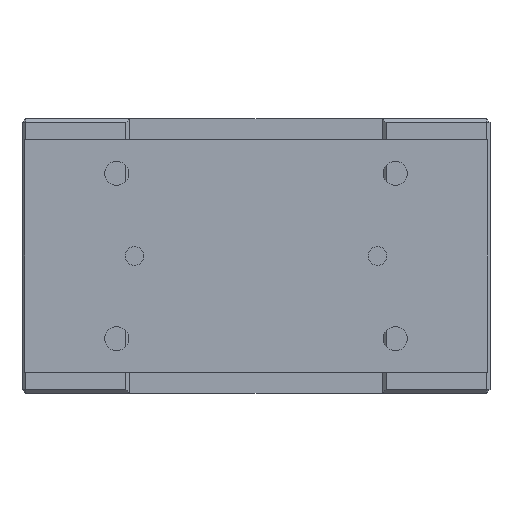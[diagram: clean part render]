
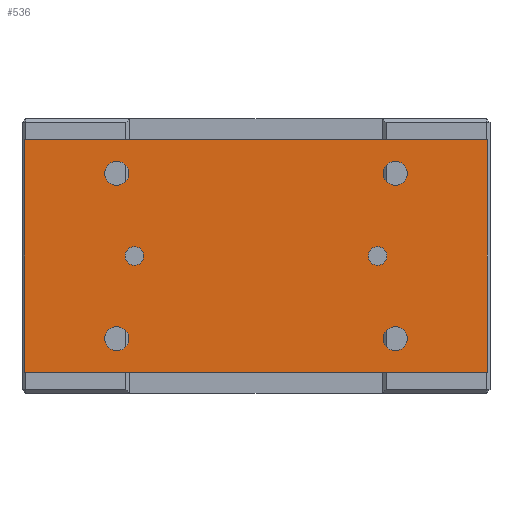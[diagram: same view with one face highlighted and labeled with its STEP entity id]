
A CAD part, left-side view. The second image highlights one B-rep face of the part: STEP entity #536.
In plain terms, the highlighted planar face has unit normal (-1, 0, 0).
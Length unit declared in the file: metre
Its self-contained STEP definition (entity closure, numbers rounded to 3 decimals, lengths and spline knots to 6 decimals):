
#536 = ADVANCED_FACE( '', ( #1251, #1252, #1253, #1254, #1255, #1256, #1257 ), #1258, .T. );
#1251 = FACE_BOUND( '', #2145, .T. );
#1252 = FACE_BOUND( '', #2146, .T. );
#1253 = FACE_BOUND( '', #2147, .T. );
#1254 = FACE_BOUND( '', #2148, .T. );
#1255 = FACE_BOUND( '', #2149, .T. );
#1256 = FACE_BOUND( '', #2150, .T. );
#1257 = FACE_OUTER_BOUND( '', #2151, .T. );
#1258 = PLANE( '', #2152 );
#2145 = EDGE_LOOP( '', ( #3507 ) );
#2146 = EDGE_LOOP( '', ( #3508 ) );
#2147 = EDGE_LOOP( '', ( #3509 ) );
#2148 = EDGE_LOOP( '', ( #3510 ) );
#2149 = EDGE_LOOP( '', ( #3511 ) );
#2150 = EDGE_LOOP( '', ( #3512 ) );
#2151 = EDGE_LOOP( '', ( #3513, #3514, #3515, #3516 ) );
#2152 = AXIS2_PLACEMENT_3D( '', #3517, #3518, #3519 );
#3507 = ORIENTED_EDGE( '', *, *, #4741, .F. );
#3508 = ORIENTED_EDGE( '', *, *, #4742, .T. );
#3509 = ORIENTED_EDGE( '', *, *, #4348, .F. );
#3510 = ORIENTED_EDGE( '', *, *, #4356, .F. );
#3511 = ORIENTED_EDGE( '', *, *, #4458, .F. );
#3512 = ORIENTED_EDGE( '', *, *, #4404, .F. );
#3513 = ORIENTED_EDGE( '', *, *, #4484, .T. );
#3514 = ORIENTED_EDGE( '', *, *, #4743, .T. );
#3515 = ORIENTED_EDGE( '', *, *, #4744, .T. );
#3516 = ORIENTED_EDGE( '', *, *, #4525, .T. );
#3517 = CARTESIAN_POINT( '', ( -0.143, -0.1245, -0.0115 ) );
#3518 = DIRECTION( '', ( -1., 0., 0. ) );
#3519 = DIRECTION( '', ( 0., 0., 1. ) );
#4348 = EDGE_CURVE( '', #5025, #5025, #5026, .T. );
#4356 = EDGE_CURVE( '', #5039, #5039, #5040, .T. );
#4404 = EDGE_CURVE( '', #5121, #5121, #5122, .T. );
#4458 = EDGE_CURVE( '', #5208, #5208, #5209, .T. );
#4484 = EDGE_CURVE( '', #5251, #5249, #5252, .T. );
#4525 = EDGE_CURVE( '', #5311, #5251, #5312, .T. );
#4741 = EDGE_CURVE( '', #5626, #5626, #5627, .T. );
#4742 = EDGE_CURVE( '', #5628, #5628, #5629, .T. );
#4743 = EDGE_CURVE( '', #5249, #5630, #5631, .T. );
#4744 = EDGE_CURVE( '', #5630, #5311, #5632, .T. );
#5025 = VERTEX_POINT( '', #6009 );
#5026 = CIRCLE( '', #6010, 0.0065 );
#5039 = VERTEX_POINT( '', #6027 );
#5040 = CIRCLE( '', #6028, 0.0065 );
#5121 = VERTEX_POINT( '', #6138 );
#5122 = CIRCLE( '', #6139, 0.0065 );
#5208 = VERTEX_POINT( '', #6256 );
#5209 = CIRCLE( '', #6257, 0.0065 );
#5249 = VERTEX_POINT( '', #6312 );
#5251 = VERTEX_POINT( '', #6315 );
#5252 = LINE( '', #6316, #6317 );
#5311 = VERTEX_POINT( '', #6397 );
#5312 = LINE( '', #6398, #6399 );
#5626 = VERTEX_POINT( '', #6920 );
#5627 = CIRCLE( '', #6921, 0.005 );
#5628 = VERTEX_POINT( '', #6922 );
#5629 = CIRCLE( '', #6923, 0.005 );
#5630 = VERTEX_POINT( '', #6924 );
#5631 = LINE( '', #6925, #6926 );
#5632 = LINE( '', #6927, #6928 );
#6009 = CARTESIAN_POINT( '', ( -0.143, -0.075, -0.112 ) );
#6010 = AXIS2_PLACEMENT_3D( '', #7379, #7380, #7381 );
#6027 = CARTESIAN_POINT( '', ( -0.143, 0.075, -0.112 ) );
#6028 = AXIS2_PLACEMENT_3D( '', #7389, #7390, #7391 );
#6138 = CARTESIAN_POINT( '', ( -0.143, 0.075, -0.023 ) );
#6139 = AXIS2_PLACEMENT_3D( '', #7442, #7443, #7444 );
#6256 = CARTESIAN_POINT( '', ( -0.143, -0.075, -0.023 ) );
#6257 = AXIS2_PLACEMENT_3D( '', #7497, #7498, #7499 );
#6312 = CARTESIAN_POINT( '', ( -0.143, -0.1245, -0.0115 ) );
#6315 = CARTESIAN_POINT( '', ( -0.143, -0.1245, -0.1365 ) );
#6316 = CARTESIAN_POINT( '', ( -0.143, -0.1245, -0.1365 ) );
#6317 = VECTOR( '', #7525, 1. );
#6397 = CARTESIAN_POINT( '', ( -0.143, 0.1245, -0.1365 ) );
#6398 = CARTESIAN_POINT( '', ( -0.143, 0.1245, -0.1365 ) );
#6399 = VECTOR( '', #7565, 1. );
#6920 = CARTESIAN_POINT( '', ( -0.143, -0.0705, -0.074 ) );
#6921 = AXIS2_PLACEMENT_3D( '', #7818, #7819, #7820 );
#6922 = CARTESIAN_POINT( '', ( -0.143, 0.0705, -0.074 ) );
#6923 = AXIS2_PLACEMENT_3D( '', #7821, #7822, #7823 );
#6924 = CARTESIAN_POINT( '', ( -0.143, 0.1245, -0.0115 ) );
#6925 = CARTESIAN_POINT( '', ( -0.143, -0.1245, -0.0115 ) );
#6926 = VECTOR( '', #7824, 1. );
#6927 = CARTESIAN_POINT( '', ( -0.143, 0.1245, -0.0115 ) );
#6928 = VECTOR( '', #7825, 1. );
#7379 = CARTESIAN_POINT( '', ( -0.143, -0.075, -0.1185 ) );
#7380 = DIRECTION( '', ( -1., 0., 0. ) );
#7381 = DIRECTION( '', ( 0., 0., 1. ) );
#7389 = CARTESIAN_POINT( '', ( -0.143, 0.075, -0.1185 ) );
#7390 = DIRECTION( '', ( -1., 0., 0. ) );
#7391 = DIRECTION( '', ( 0., 0., 1. ) );
#7442 = CARTESIAN_POINT( '', ( -0.143, 0.075, -0.0295 ) );
#7443 = DIRECTION( '', ( -1., 0., 0. ) );
#7444 = DIRECTION( '', ( 0., 0., 1. ) );
#7497 = CARTESIAN_POINT( '', ( -0.143, -0.075, -0.0295 ) );
#7498 = DIRECTION( '', ( -1., 0., 0. ) );
#7499 = DIRECTION( '', ( 0., 0., 1. ) );
#7525 = DIRECTION( '', ( 0., 0., 1. ) );
#7565 = DIRECTION( '', ( 0., -1., 0. ) );
#7818 = CARTESIAN_POINT( '', ( -0.143, -0.0655, -0.074 ) );
#7819 = DIRECTION( '', ( -1., 0., 0. ) );
#7820 = DIRECTION( '', ( 0., -1., 0. ) );
#7821 = CARTESIAN_POINT( '', ( -0.143, 0.0655, -0.074 ) );
#7822 = DIRECTION( '', ( 1., 0., 0. ) );
#7823 = DIRECTION( '', ( 0., 1., 0. ) );
#7824 = DIRECTION( '', ( 0., 1., 0. ) );
#7825 = DIRECTION( '', ( 0., 0., -1. ) );
